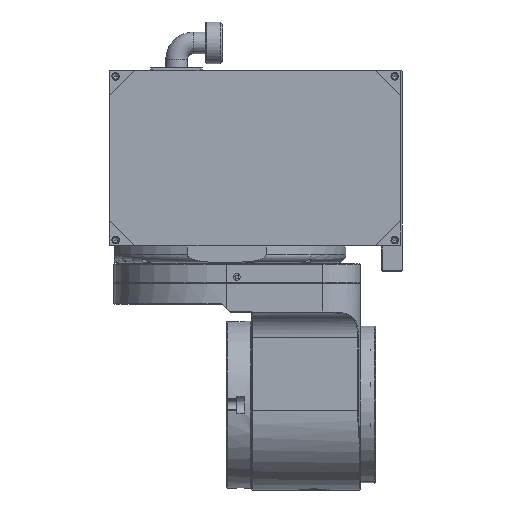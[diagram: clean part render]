
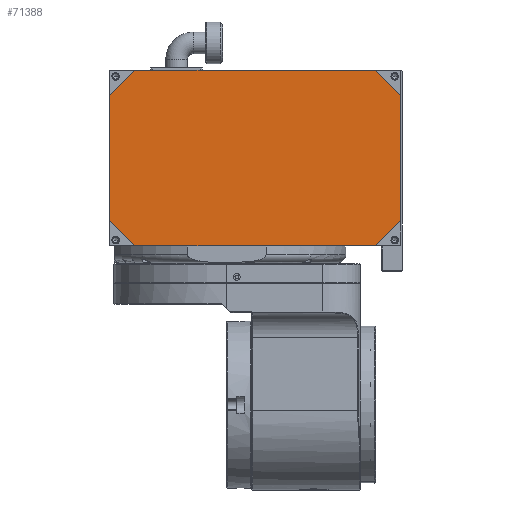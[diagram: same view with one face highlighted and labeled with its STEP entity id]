
A CAD part, left-side view. The second image highlights one B-rep face of the part: STEP entity #71388.
In plain terms, the highlighted planar face has unit normal (-1, 0, 0).
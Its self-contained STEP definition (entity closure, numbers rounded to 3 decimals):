
#2026 = ORIENTED_EDGE ( 'NONE', *, *, #63704, .F. ) ;
#5310 = VERTEX_POINT ( 'NONE', #46026 ) ;
#6639 = EDGE_LOOP ( 'NONE', ( #35139, #37395, #19507, #31554, #43619, #2026, #35041, #76504 ) ) ;
#9599 = CARTESIAN_POINT ( 'NONE',  ( -357.823, -13.605, 387.682 ) ) ;
#9740 = VECTOR ( 'NONE', #66187, 1000. ) ;
#14111 = DIRECTION ( 'NONE',  ( 0., 0.707, -0.707 ) ) ;
#15537 = CARTESIAN_POINT ( 'NONE',  ( -357.823, 160.395, 282.682 ) ) ;
#17150 = DIRECTION ( 'NONE',  ( 0., 0., -1. ) ) ;
#17280 = CARTESIAN_POINT ( 'NONE',  ( -357.823, -187.605, 462.682 ) ) ;
#18103 = LINE ( 'NONE', #43473, #31157 ) ;
#19507 = ORIENTED_EDGE ( 'NONE', *, *, #49528, .F. ) ;
#19610 = CARTESIAN_POINT ( 'NONE',  ( -357.823, 160.395, 462.682 ) ) ;
#26327 = EDGE_CURVE ( 'NONE', #71378, #33321, #46525, .T. ) ;
#27797 = CARTESIAN_POINT ( 'NONE',  ( -357.823, -157.605, 492.682 ) ) ;
#27909 = DIRECTION ( 'NONE',  ( -1., 0., 0. ) ) ;
#28555 = CARTESIAN_POINT ( 'NONE',  ( -357.823, 130.395, 492.682 ) ) ;
#28588 = VECTOR ( 'NONE', #65971, 1000. ) ;
#29250 = EDGE_CURVE ( 'NONE', #53527, #81187, #18103, .T. ) ;
#31157 = VECTOR ( 'NONE', #82061, 1000. ) ;
#31554 = ORIENTED_EDGE ( 'NONE', *, *, #45425, .F. ) ;
#31795 = VECTOR ( 'NONE', #43875, 1000. ) ;
#31816 = LINE ( 'NONE', #75361, #31795 ) ;
#33321 = VERTEX_POINT ( 'NONE', #64154 ) ;
#33335 = DIRECTION ( 'NONE',  ( 0., -1., 0. ) ) ;
#35041 = ORIENTED_EDGE ( 'NONE', *, *, #58459, .F. ) ;
#35077 = LINE ( 'NONE', #15537, #9740 ) ;
#35139 = ORIENTED_EDGE ( 'NONE', *, *, #26327, .F. ) ;
#35550 = VECTOR ( 'NONE', #59282, 1000. ) ;
#35739 = AXIS2_PLACEMENT_3D ( 'NONE', #9599, #27909, #33335 ) ;
#37395 = ORIENTED_EDGE ( 'NONE', *, *, #53156, .F. ) ;
#39981 = FACE_OUTER_BOUND ( 'NONE', #6639, .T. ) ;
#43473 = CARTESIAN_POINT ( 'NONE',  ( -357.823, 130.395, 492.682 ) ) ;
#43619 = ORIENTED_EDGE ( 'NONE', *, *, #29250, .F. ) ;
#43701 = CARTESIAN_POINT ( 'NONE',  ( -357.823, 130.395, 282.682 ) ) ;
#43875 = DIRECTION ( 'NONE',  ( 0., -1., 0. ) ) ;
#45425 = EDGE_CURVE ( 'NONE', #81187, #54007, #31816, .T. ) ;
#46026 = CARTESIAN_POINT ( 'NONE',  ( -357.823, 160.395, 312.682 ) ) ;
#46525 = LINE ( 'NONE', #78457, #80263 ) ;
#47192 = LINE ( 'NONE', #65836, #75394 ) ;
#47678 = LINE ( 'NONE', #52258, #35550 ) ;
#49528 = EDGE_CURVE ( 'NONE', #54007, #55128, #55476, .T. ) ;
#50900 = CARTESIAN_POINT ( 'NONE',  ( -357.823, 160.395, 282.682 ) ) ;
#52258 = CARTESIAN_POINT ( 'NONE',  ( -357.823, 160.395, 312.682 ) ) ;
#53156 = EDGE_CURVE ( 'NONE', #55128, #71378, #47192, .T. ) ;
#53527 = VERTEX_POINT ( 'NONE', #19610 ) ;
#54007 = VERTEX_POINT ( 'NONE', #27797 ) ;
#55128 = VERTEX_POINT ( 'NONE', #57026 ) ;
#55476 = LINE ( 'NONE', #17280, #28588 ) ;
#57026 = CARTESIAN_POINT ( 'NONE',  ( -357.823, -187.605, 462.682 ) ) ;
#58459 = EDGE_CURVE ( 'NONE', #61537, #5310, #47678, .T. ) ;
#59282 = DIRECTION ( 'NONE',  ( 0., 0.707, 0.707 ) ) ;
#61537 = VERTEX_POINT ( 'NONE', #43701 ) ;
#63704 = EDGE_CURVE ( 'NONE', #5310, #53527, #35077, .T. ) ;
#64129 = DIRECTION ( 'NONE',  ( 0., 1., 0. ) ) ;
#64154 = CARTESIAN_POINT ( 'NONE',  ( -357.823, -157.605, 282.682 ) ) ;
#65836 = CARTESIAN_POINT ( 'NONE',  ( -357.823, -187.605, 282.682 ) ) ;
#65971 = DIRECTION ( 'NONE',  ( 0., -0.707, -0.707 ) ) ;
#66187 = DIRECTION ( 'NONE',  ( 0., 0., 1. ) ) ;
#70025 = EDGE_CURVE ( 'NONE', #33321, #61537, #76194, .T. ) ;
#71378 = VERTEX_POINT ( 'NONE', #77718 ) ;
#71388 = ADVANCED_FACE ( 'NONE', ( #39981 ), #78550, .T. ) ;
#75361 = CARTESIAN_POINT ( 'NONE',  ( -357.823, 160.395, 492.682 ) ) ;
#75394 = VECTOR ( 'NONE', #17150, 1000. ) ;
#76194 = LINE ( 'NONE', #50900, #80785 ) ;
#76504 = ORIENTED_EDGE ( 'NONE', *, *, #70025, .F. ) ;
#77718 = CARTESIAN_POINT ( 'NONE',  ( -357.823, -187.605, 312.682 ) ) ;
#78457 = CARTESIAN_POINT ( 'NONE',  ( -357.823, -157.605, 282.682 ) ) ;
#78550 = PLANE ( 'NONE',  #35739 ) ;
#80263 = VECTOR ( 'NONE', #14111, 1000. ) ;
#80785 = VECTOR ( 'NONE', #64129, 1000. ) ;
#81187 = VERTEX_POINT ( 'NONE', #28555 ) ;
#82061 = DIRECTION ( 'NONE',  ( 0., -0.707, 0.707 ) ) ;
